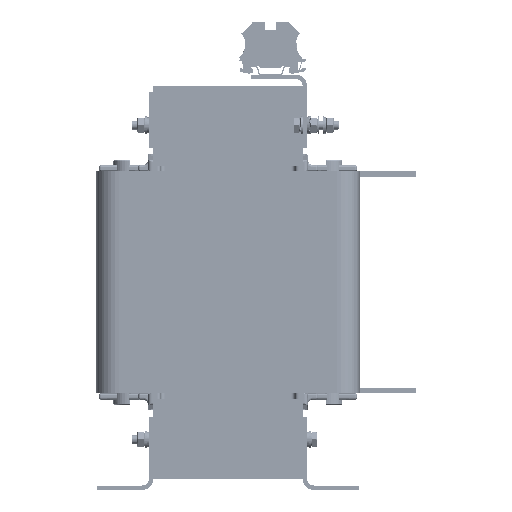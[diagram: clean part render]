
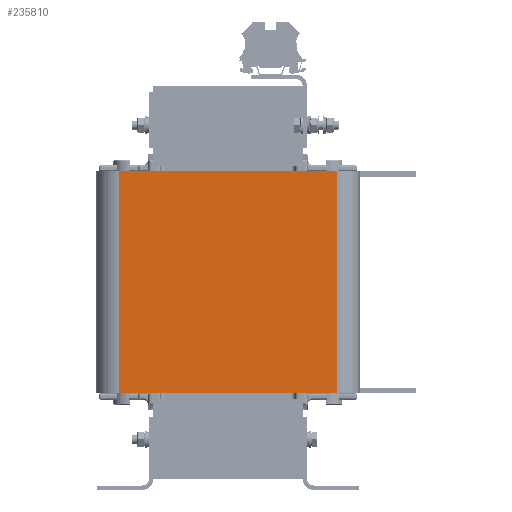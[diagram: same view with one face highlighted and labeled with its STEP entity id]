
A CAD part, left-side view. The second image highlights one B-rep face of the part: STEP entity #235810.
In plain terms, the highlighted planar face has unit normal (-1, 0, 0).
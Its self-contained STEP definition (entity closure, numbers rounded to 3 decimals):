
#228135=CARTESIAN_POINT('',(-221.45,97.3,99.));
#228136=VERTEX_POINT('',#228135);
#228146=CARTESIAN_POINT('',(-221.45,-97.3,99.));
#228147=VERTEX_POINT('',#228146);
#228148=CARTESIAN_POINT('',(-221.45,-97.3,99.));
#228149=DIRECTION('',(0.0,1.0,0.0));
#228150=VECTOR('',#228149,194.6);
#228151=LINE('',#228148,#228150);
#228152=EDGE_CURVE('',#228147,#228136,#228151,.T.);
#229650=CARTESIAN_POINT('',(-221.45,-97.3,-99.));
#229651=VERTEX_POINT('',#229650);
#229659=CARTESIAN_POINT('',(-221.45,97.3,-99.));
#229660=VERTEX_POINT('',#229659);
#229661=CARTESIAN_POINT('',(-221.45,97.3,-99.));
#229662=DIRECTION('',(0.0,-1.0,0.0));
#229663=VECTOR('',#229662,194.6);
#229664=LINE('',#229661,#229663);
#229665=EDGE_CURVE('',#229660,#229651,#229664,.T.);
#235705=CARTESIAN_POINT('',(-221.45,-97.3,-99.));
#235706=DIRECTION('',(0.0,0.0,1.0));
#235707=VECTOR('',#235706,198.);
#235708=LINE('',#235705,#235707);
#235709=EDGE_CURVE('',#229651,#228147,#235708,.T.);
#235788=CARTESIAN_POINT('',(-221.45,97.3,99.));
#235789=DIRECTION('',(0.0,0.0,-1.0));
#235790=VECTOR('',#235789,198.);
#235791=LINE('',#235788,#235790);
#235792=EDGE_CURVE('',#228136,#229660,#235791,.T.);
#235799=CARTESIAN_POINT('',(-221.45,97.3,0.0));
#235800=DIRECTION('',(-1.0,0.0,0.0));
#235801=DIRECTION('',(0.0,0.0,-1.0));
#235802=AXIS2_PLACEMENT_3D('',#235799,#235800,#235801);
#235803=PLANE('',#235802);
#235804=ORIENTED_EDGE('',*,*,#229665,.T.);
#235805=ORIENTED_EDGE('',*,*,#235709,.T.);
#235806=ORIENTED_EDGE('',*,*,#228152,.T.);
#235807=ORIENTED_EDGE('',*,*,#235792,.T.);
#235808=EDGE_LOOP('',(#235804,#235805,#235806,#235807));
#235809=FACE_OUTER_BOUND('',#235808,.T.);
#235810=ADVANCED_FACE('',(#235809),#235803,.T.);
